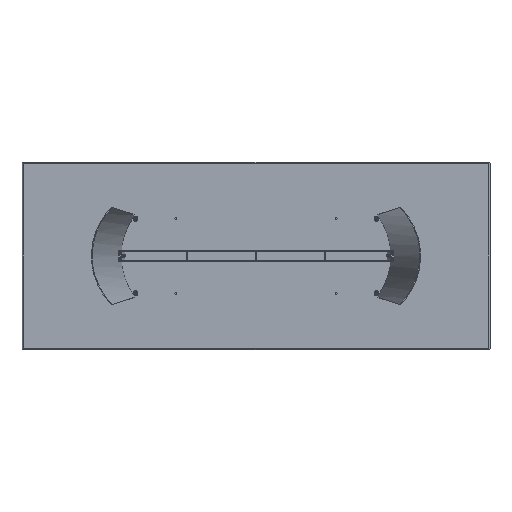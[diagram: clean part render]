
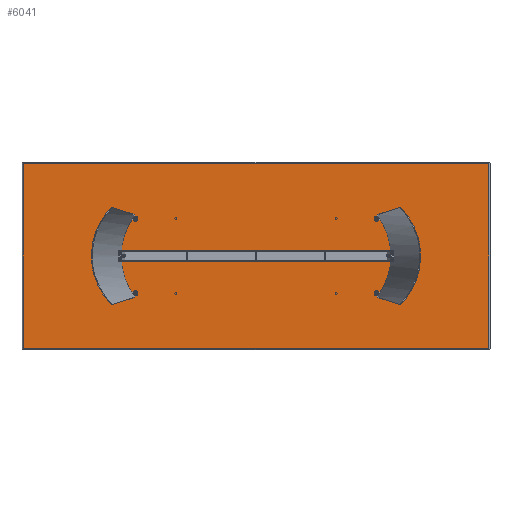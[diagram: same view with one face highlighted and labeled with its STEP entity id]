
A CAD part, front view. The second image highlights one B-rep face of the part: STEP entity #6041.
In plain terms, the highlighted planar face has unit normal (0, -1, 0).
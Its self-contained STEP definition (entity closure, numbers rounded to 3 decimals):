
#132 = ORIENTED_EDGE ( 'NONE', *, *, #2073, .T. ) ;
#547 = EDGE_CURVE ( 'NONE', #5773, #4488, #5880, .T. ) ;
#963 = CARTESIAN_POINT ( 'NONE',  ( -1492., 0., -592. ) ) ;
#1135 = CARTESIAN_POINT ( 'NONE',  ( 1492., 0., 592. ) ) ;
#1209 = CARTESIAN_POINT ( 'NONE',  ( -1492., 0., 592. ) ) ;
#1489 = PLANE ( 'NONE',  #6528 ) ;
#1721 = DIRECTION ( 'NONE',  ( 0., 1., 0. ) ) ;
#1850 = EDGE_LOOP ( 'NONE', ( #6845, #2163, #132, #11549 ) ) ;
#2073 = EDGE_CURVE ( 'NONE', #3117, #3680, #4236, .T. ) ;
#2142 = CARTESIAN_POINT ( 'NONE',  ( 1492., 0., 0. ) ) ;
#2163 = ORIENTED_EDGE ( 'NONE', *, *, #8778, .T. ) ;
#2677 = CARTESIAN_POINT ( 'NONE',  ( 0., 0., 0. ) ) ;
#3063 = CARTESIAN_POINT ( 'NONE',  ( 0., 0., -592. ) ) ;
#3117 = VERTEX_POINT ( 'NONE', #1209 ) ;
#3450 = EDGE_CURVE ( 'NONE', #3680, #5773, #9499, .T. ) ;
#3451 = VECTOR ( 'NONE', #8987, 1000. ) ;
#3680 = VERTEX_POINT ( 'NONE', #963 ) ;
#4236 = LINE ( 'NONE', #8097, #3451 ) ;
#4488 = VERTEX_POINT ( 'NONE', #1135 ) ;
#4710 = VECTOR ( 'NONE', #6783, 1000. ) ;
#5773 = VERTEX_POINT ( 'NONE', #10355 ) ;
#5785 = DIRECTION ( 'NONE',  ( 1., 0., 0. ) ) ;
#5870 = LINE ( 'NONE', #11423, #8300 ) ;
#5880 = LINE ( 'NONE', #2142, #4710 ) ;
#6041 = ADVANCED_FACE ( 'NONE', ( #6062 ), #1489, .F. ) ;
#6062 = FACE_OUTER_BOUND ( 'NONE', #1850, .T. ) ;
#6528 = AXIS2_PLACEMENT_3D ( 'NONE', #2677, #1721, #7315 ) ;
#6783 = DIRECTION ( 'NONE',  ( 0., 0., 1. ) ) ;
#6845 = ORIENTED_EDGE ( 'NONE', *, *, #547, .T. ) ;
#7315 = DIRECTION ( 'NONE',  ( 0., 0., 1. ) ) ;
#8097 = CARTESIAN_POINT ( 'NONE',  ( -1492., 0., 0. ) ) ;
#8300 = VECTOR ( 'NONE', #10466, 1000. ) ;
#8778 = EDGE_CURVE ( 'NONE', #4488, #3117, #5870, .T. ) ;
#8987 = DIRECTION ( 'NONE',  ( 0., 0., -1. ) ) ;
#9499 = LINE ( 'NONE', #3063, #11105 ) ;
#10355 = CARTESIAN_POINT ( 'NONE',  ( 1492., 0., -592. ) ) ;
#10466 = DIRECTION ( 'NONE',  ( -1., 0., 0. ) ) ;
#11105 = VECTOR ( 'NONE', #5785, 1000. ) ;
#11423 = CARTESIAN_POINT ( 'NONE',  ( 0., 0., 592. ) ) ;
#11549 = ORIENTED_EDGE ( 'NONE', *, *, #3450, .T. ) ;
